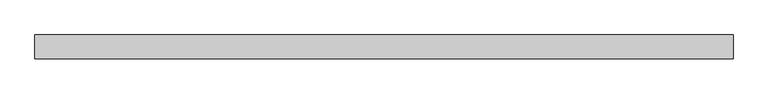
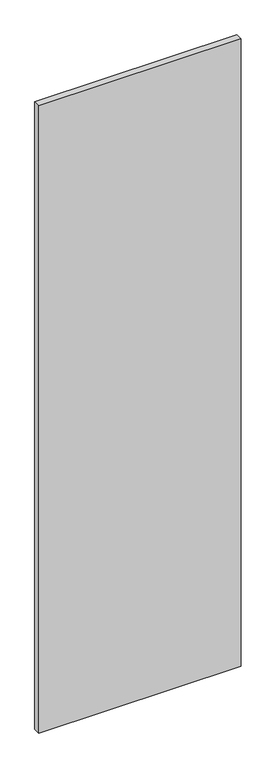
"""IFC4 building model written with IfcOpenShell, lengths in millimetres: plate geometry, Vitré."""

from ifc_helpers import new_model, si_unit, origin, origin_with_axes, place, context, project, spatial, polyline, outline, extrude, source, transform, mapped, element, save


def plate_3538d84b(model_context):
    return source(origin(), model_context, "Body", "SweptSolid", [
        extrude(outline(polyline([(-588.8147737, -20.0), (-588.8147737, 20.0), (588.8147737, 20.0), (588.8147737, -20.0), (-588.8147737, -20.0)])), origin_with_axes(), (0.0, 0.0, 1.0), 3860.0),
    ])


if __name__ == "__main__":
    model = new_model("IFC4")
    model_context = context("Model", 3, world=origin())
    ifc_project = project(units=[si_unit("LENGTHUNIT", "METRE", prefix="MILLI")], contexts=[model_context])
    site = spatial("IfcSite", under=ifc_project)
    building = spatial("IfcBuilding", under=site)
    placement = place(None, origin())
    plate_shape = plate_3538d84b(model_context)
    element("IfcPlate", 1, ObjectType="Vitré", at=placement, inside=building, context=model_context, shape_type="MappedRepresentation", body=[
        mapped(plate_shape, transform((0.0, 0.0, 0.0), x_axis=(1.0, 0.0, 0.0), y_axis=(0.0, 1.0, 0.0), z_axis=(0.0, 0.0, 1.0))),
    ])
    save(model, "model.ifc")
